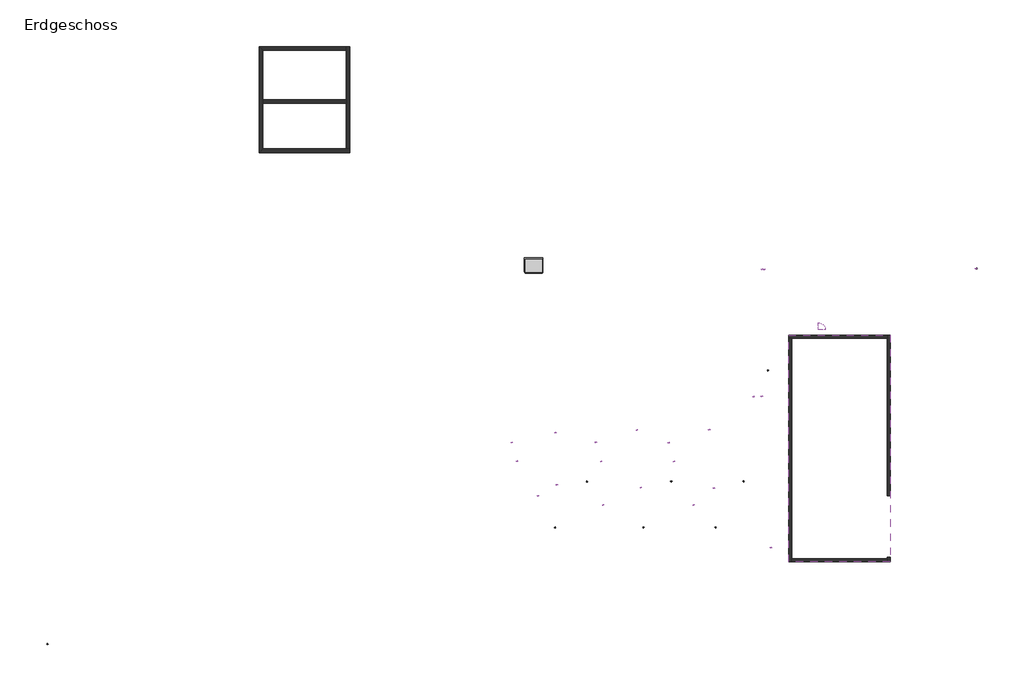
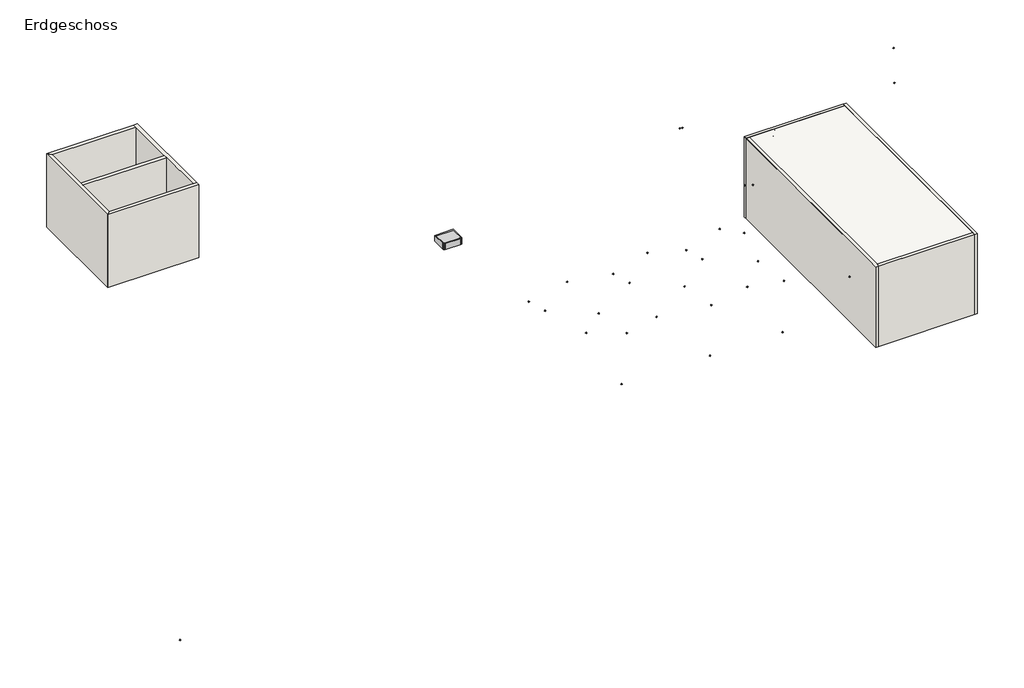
# One storey, incomplete: 32 proxies, 9 walls, 1 slab.
"""IFC4 building model written with IfcOpenShell, lengths in millimetres."""

from ifc_helpers import new_model, si_unit, origin, origin_with_axes, place, context, project, spatial, polyline, outline, extrude, faceted_brep, triangles, transform, mapped, element, save
from components import generic_models_42b81b73, generic_models_af65d3da, geschossdecke_929_geschossdecke_929_51702491

model = new_model("IFC4")

# Units and contexts
model_context = context("Model", 3, world=origin())
ifc_project = project(units=[si_unit("LENGTHUNIT", "METRE", prefix="MILLI")], contexts=[model_context])

# Site, building, storey
site = spatial("IfcSite", under=ifc_project)
building = spatial("IfcBuilding", under=site)
storey = spatial("IfcBuildingStorey", under=building, Name="Erdgeschoss", Elevation=0.0)

# Proxies
placement = place(None, origin())
element("IfcBuildingElementProxy", 1, Name="Gebäudeautomation", ObjectType="Gebäudeautomation", at=placement, inside=storey, context=model_context, shape_type="Tessellation", body=[
    triangles([(34971.7118774, 12296.6087311, 2378.6769012), (34996.712677, 12296.6087311, 2353.6769737), (34971.7118774, 12321.6083679, 2353.6769737), (34971.7118774, 12271.6090942, 2353.6769737), (34946.7134033, 12296.6087311, 2353.6769737), (34971.7118774, 12296.6087311, 2328.6770462)], [[6, 5, 3], [6, 4, 5], [6, 2, 4], [6, 3, 2], [1, 3, 5], [1, 5, 4], [1, 4, 2], [1, 2, 3]]),
])
element("IfcBuildingElementProxy", 2, Name="Gebäudeautomation", ObjectType="Gebäudeautomation", at=placement, inside=storey, context=model_context, shape_type="Tessellation", body=[
    triangles([(34997.8893494, 12296.6087311, 1171.1825094), (35022.8901489, 12296.6087311, 1146.1825819), (34997.8893494, 12321.6083679, 1146.1825819), (34997.8893494, 12271.6090942, 1146.1825819), (34972.8908752, 12296.6087311, 1146.1825819), (34997.8893494, 12296.6087311, 1121.182509)], [[6, 5, 3], [6, 4, 5], [6, 2, 4], [6, 3, 2], [1, 3, 5], [1, 5, 4], [1, 4, 2], [1, 2, 3]]),
])
element("IfcBuildingElementProxy", 3, Name="Gebäudeautomation", ObjectType="Gebäudeautomation", at=placement, inside=storey, context=model_context, shape_type="Tessellation", body=[
    triangles([(20770.0740784, 4927.2079697, 2065.318412), (20795.0748779, 4927.2079697, 2040.3184845), (20770.0740784, 4952.2081879, 2040.3184845), (20770.0740784, 4902.2077515, 2040.3184845), (20745.0756042, 4927.2079697, 2040.3184845), (20770.0740784, 4927.2079697, 2015.3184116)], [[6, 5, 3], [6, 4, 5], [6, 2, 4], [6, 3, 2], [1, 3, 5], [1, 5, 4], [1, 4, 2], [1, 2, 3]]),
])
element("IfcBuildingElementProxy", 4, Name="Gebäudeautomation", ObjectType="Gebäudeautomation", at=placement, inside=storey, context=model_context, shape_type="Tessellation", body=[
    triangles([(21334.9489014, 6974.3644089, 2376.3251553), (21359.9497009, 6974.3644089, 2351.3252277), (21334.9489014, 6999.3640457, 2351.3252277), (21334.9489014, 6949.3641907, 2351.3252277), (21309.9504272, 6974.3644089, 2351.3252277), (21334.9489014, 6974.3644089, 2326.3250095)], [[6, 5, 3], [6, 4, 5], [6, 2, 4], [6, 3, 2], [1, 3, 5], [1, 5, 4], [1, 4, 2], [1, 2, 3]]),
])
element("IfcBuildingElementProxy", 5, Name="Gebäudeautomation", ObjectType="Gebäudeautomation", at=placement, inside=storey, context=model_context, shape_type="Tessellation", body=[
    triangles([(22355.7772888, 5392.4696869, 1220.8779499), (22380.7780884, 5392.4696869, 1195.8778044), (22355.7772888, 5417.4699051, 1195.8778044), (22355.7772888, 5367.4694687, 1195.8778044), (22330.7764893, 5392.4696869, 1195.8778044), (22355.7772888, 5392.4696869, 1170.8778042)], [[6, 5, 3], [6, 4, 5], [6, 2, 4], [6, 3, 2], [1, 3, 5], [1, 5, 4], [1, 4, 2], [1, 2, 3]]),
])
element("IfcBuildingElementProxy", 6, Name="Gebäudeautomation", ObjectType="Gebäudeautomation", at=placement, inside=storey, context=model_context, shape_type="Tessellation", body=[
    triangles([(21321.2869446, 3897.0580582, 748.9205658), (21346.2854187, 3897.0580582, 723.9205656), (21321.2869446, 3922.0579857, 723.9205656), (21321.2869446, 3872.05784, 723.9205656), (21296.286145, 3897.0580582, 723.9205656), (21321.2869446, 3897.0580582, 698.9205654)], [[6, 5, 3], [6, 4, 5], [6, 2, 4], [6, 3, 2], [1, 3, 5], [1, 5, 4], [1, 4, 2], [1, 2, 3]]),
])
element("IfcBuildingElementProxy", 7, Name="Gebäudeautomation", ObjectType="Gebäudeautomation", at=placement, inside=storey, context=model_context, shape_type="Tessellation", body=[
    triangles([(20090.7294983, 6050.8062469, 2386.3672749), (20115.7279724, 6050.8062469, 2361.3673473), (20090.7294983, 6075.8064651, 2361.3673473), (20090.7294983, 6025.8060287, 2361.3673473), (20065.7286987, 6050.8062469, 2361.3673473), (20090.7294983, 6050.8062469, 2336.3672745)], [[6, 5, 3], [6, 4, 5], [6, 2, 4], [6, 3, 2], [1, 3, 5], [1, 5, 4], [1, 4, 2], [1, 2, 3]]),
])
element("IfcBuildingElementProxy", 8, Name="Gebäudeautomation", ObjectType="Gebäudeautomation", at=placement, inside=storey, context=model_context, shape_type="Tessellation", body=[
    triangles([(19915.103009, 6660.5707718, 2381.3495579), (19940.1038086, 6660.5707718, 2356.3496304), (19915.103009, 6685.5704086, 2356.3496304), (19915.103009, 6635.5705536, 2356.3496304), (19890.1045349, 6660.5707718, 2356.3496304), (19915.103009, 6660.5707718, 2331.3494122)], [[6, 5, 3], [6, 4, 5], [6, 2, 4], [6, 3, 2], [1, 3, 5], [1, 5, 4], [1, 4, 2], [1, 2, 3]]),
])
element("IfcBuildingElementProxy", 9, Name="Gebäudeautomation", ObjectType="Gebäudeautomation", at=placement, inside=storey, context=model_context, shape_type="Tessellation", body=[
    triangles([(21380.3879883, 5283.3629745, 2304.7020561), (21405.3887878, 5283.3629745, 2279.7021286), (21380.3879883, 5308.3626114, 2279.7021286), (21380.3879883, 5258.3627563, 2279.7021286), (21355.3871887, 5283.3629745, 2279.7021286), (21380.3879883, 5283.3629745, 2254.7019104)], [[6, 5, 3], [6, 4, 5], [6, 2, 4], [6, 3, 2], [1, 3, 5], [1, 5, 4], [1, 4, 2], [1, 2, 3]]),
])
element("IfcBuildingElementProxy", 10, Name="Gebäudeautomation", ObjectType="Gebäudeautomation", at=placement, inside=storey, context=model_context, shape_type="Tessellation", body=[
    triangles([(22876.3850464, 4632.7869873, 2053.1871758), (22901.3858459, 4632.7869873, 2028.1872482), (22876.3850464, 4657.7872055, 2028.1872482), (22876.3850464, 4607.7870598, 2028.1872482), (22851.3842468, 4632.7869873, 2028.1872482), (22876.3850464, 4632.7869873, 2003.1871754)], [[6, 5, 3], [6, 4, 5], [6, 2, 4], [6, 3, 2], [1, 3, 5], [1, 5, 4], [1, 4, 2], [1, 2, 3]]),
])
element("IfcBuildingElementProxy", 11, Name="Gebäudeautomation", ObjectType="Gebäudeautomation", at=placement, inside=storey, context=model_context, shape_type="Tessellation", body=[
    triangles([(23982.4849731, 7061.0137711, 2382.7592102), (24007.4834473, 7061.0137711, 2357.7592827), (23982.4849731, 7086.0139893, 2357.7592827), (23982.4849731, 7036.0141342, 2357.7592827), (23957.4841736, 7061.0137711, 2357.7592827), (23982.4849731, 7061.0137711, 2332.7592098)], [[6, 5, 3], [6, 4, 5], [6, 2, 4], [6, 3, 2], [1, 3, 5], [1, 5, 4], [1, 4, 2], [1, 2, 3]]),
])
element("IfcBuildingElementProxy", 12, Name="Gebäudeautomation", ObjectType="Gebäudeautomation", at=placement, inside=storey, context=model_context, shape_type="Tessellation", body=[
    triangles([(25091.194043, 5395.4299713, 1216.2765593), (25116.1925171, 5395.4299713, 1191.2764864), (25091.194043, 5420.4301895, 1191.2764864), (25091.194043, 5370.4297531, 1191.2764864), (25066.1932434, 5395.4299713, 1191.2764864), (25091.194043, 5395.4299713, 1166.2764862)], [[6, 5, 3], [6, 4, 5], [6, 2, 4], [6, 3, 2], [1, 3, 5], [1, 5, 4], [1, 4, 2], [1, 2, 3]]),
])
element("IfcBuildingElementProxy", 13, Name="Gebäudeautomation", ObjectType="Gebäudeautomation", at=placement, inside=storey, context=model_context, shape_type="Tessellation", body=[
    triangles([(24185.2935242, 3903.7463127, 711.716514), (24210.2943237, 3903.7463127, 686.7165138), (24185.2935242, 3928.7465309, 686.7165138), (24185.2935242, 3878.7463852, 686.7165138), (24160.2927246, 3903.7463127, 686.7165138), (24185.2935242, 3903.7463127, 661.716441)], [[6, 5, 3], [6, 4, 5], [6, 2, 4], [6, 3, 2], [1, 3, 5], [1, 5, 4], [1, 4, 2], [1, 2, 3]]),
])
element("IfcBuildingElementProxy", 14, Name="Gebäudeautomation", ObjectType="Gebäudeautomation", at=placement, inside=storey, context=model_context, shape_type="Tessellation", body=[
    triangles([(22815.4259766, 6041.2702011, 2385.5795322), (22840.4244507, 6041.2702011, 2360.5796047), (22815.4259766, 6066.2704193, 2360.5796047), (22815.4259766, 6016.2699829, 2360.5796047), (22790.425177, 6041.2702011, 2360.5796047), (22815.4259766, 6041.2702011, 2335.5795319)], [[6, 5, 3], [6, 4, 5], [6, 2, 4], [6, 3, 2], [1, 3, 5], [1, 5, 4], [1, 4, 2], [1, 2, 3]]),
])
element("IfcBuildingElementProxy", 15, Name="Gebäudeautomation", ObjectType="Gebäudeautomation", at=placement, inside=storey, context=model_context, shape_type="Tessellation", body=[
    triangles([(22645.9456238, 6663.4130402, 2375.5817413), (22670.9440979, 6663.4130402, 2350.5818138), (22645.9456238, 6688.412677, 2350.5818138), (22645.9456238, 6638.412822, 2350.5818138), (22620.9448242, 6663.4130402, 2350.5818138), (22645.9456238, 6663.4130402, 2325.581741)], [[6, 5, 3], [6, 4, 5], [6, 2, 4], [6, 3, 2], [1, 3, 5], [1, 5, 4], [1, 4, 2], [1, 2, 3]]),
])
element("IfcBuildingElementProxy", 16, Name="Gebäudeautomation", ObjectType="Gebäudeautomation", at=placement, inside=storey, context=model_context, shape_type="Tessellation", body=[
    triangles([(24107.5587341, 5197.5577469, 2320.3410725), (24132.5572083, 5197.5577469, 2295.3411449), (24107.5587341, 5222.5579651, 2295.3411449), (24107.5587341, 5172.55811, 2295.3411449), (24082.5579346, 5197.5577469, 2295.3411449), (24107.5587341, 5197.5577469, 2270.3410721)], [[6, 5, 3], [6, 4, 5], [6, 2, 4], [6, 3, 2], [1, 3, 5], [1, 5, 4], [1, 4, 2], [1, 2, 3]]),
])
element("IfcBuildingElementProxy", 17, Name="Gebäudeautomation", ObjectType="Gebäudeautomation", at=placement, inside=storey, context=model_context, shape_type="Tessellation", body=[
    triangles([(25810.0687683, 4630.4045746, 2057.2016109), (25835.0672424, 4630.4045746, 2032.2016834), (25810.0687683, 4655.4047928, 2032.2016834), (25810.0687683, 4605.4046471, 2032.2016834), (25785.0679688, 4630.4045746, 2032.2016834), (25810.0687683, 4630.4045746, 2007.2016106)], [[6, 5, 3], [6, 4, 5], [6, 2, 4], [6, 3, 2], [1, 3, 5], [1, 5, 4], [1, 4, 2], [1, 2, 3]]),
])
element("IfcBuildingElementProxy", 18, Name="Gebäudeautomation", ObjectType="Gebäudeautomation", at=placement, inside=storey, context=model_context, shape_type="Tessellation", body=[
    triangles([(26324.6536377, 7071.8235764, 2375.4890144), (26349.6544373, 7071.8235764, 2350.4889416), (26324.6536377, 7096.8237946, 2350.4889416), (26324.6536377, 7046.8233582, 2350.4889416), (26299.6551636, 7071.8235764, 2350.4889416), (26324.6536377, 7071.8235764, 2325.4890141)], [[6, 5, 3], [6, 4, 5], [6, 2, 4], [6, 3, 2], [1, 3, 5], [1, 5, 4], [1, 4, 2], [1, 2, 3]]),
])
element("IfcBuildingElementProxy", 19, Name="Gebäudeautomation", ObjectType="Gebäudeautomation", at=placement, inside=storey, context=model_context, shape_type="Tessellation", body=[
    triangles([(27439.0646851, 5395.4299713, 1223.3693676), (27464.0654846, 5395.4299713, 1198.3694401), (27439.0646851, 5420.4301895, 1198.3694401), (27439.0646851, 5370.4297531, 1198.3694401), (27414.0662109, 5395.4299713, 1198.3694401), (27439.0646851, 5395.4299713, 1173.3694399)], [[6, 5, 3], [6, 4, 5], [6, 2, 4], [6, 3, 2], [1, 3, 5], [1, 5, 4], [1, 4, 2], [1, 2, 3]]),
])
element("IfcBuildingElementProxy", 20, Name="Gebäudeautomation", ObjectType="Gebäudeautomation", at=placement, inside=storey, context=model_context, shape_type="Tessellation", body=[
    triangles([(26532.8641846, 3903.7463127, 695.6586279), (26557.8626587, 3903.7463127, 670.6586277), (26532.8641846, 3928.7465309, 670.6586277), (26532.8641846, 3878.7463852, 670.6586277), (26507.863385, 3903.7463127, 670.6586277), (26532.8641846, 3903.7463127, 645.6585548)], [[6, 5, 3], [6, 4, 5], [6, 2, 4], [6, 3, 2], [1, 3, 5], [1, 5, 4], [1, 4, 2], [1, 2, 3]]),
])
element("IfcBuildingElementProxy", 21, Name="Gebäudeautomation", ObjectType="Gebäudeautomation", at=placement, inside=storey, context=model_context, shape_type="Tessellation", body=[
    triangles([(25173.9355042, 6041.2702011, 2371.3937702), (25198.9363037, 6041.2702011, 2346.3938427), (25173.9355042, 6066.2704193, 2346.3938427), (25173.9355042, 6016.2699829, 2346.3938427), (25148.93703, 6041.2702011, 2346.3938427), (25173.9355042, 6041.2702011, 2321.3937698)], [[6, 5, 3], [6, 4, 5], [6, 2, 4], [6, 3, 2], [1, 3, 5], [1, 5, 4], [1, 4, 2], [1, 2, 3]]),
])
element("IfcBuildingElementProxy", 22, Name="Gebäudeautomation", ObjectType="Gebäudeautomation", at=placement, inside=storey, context=model_context, shape_type="Tessellation", body=[
    triangles([(25006.9201172, 6650.8574112, 2371.0214092), (25031.9209167, 6650.8574112, 2346.0213364), (25006.9201172, 6675.857048, 2346.0213364), (25006.9201172, 6625.857193, 2346.0213364), (24981.9216431, 6650.8574112, 2346.0213364), (25006.9201172, 6650.8574112, 2321.0214088)], [[6, 5, 3], [6, 4, 5], [6, 2, 4], [6, 3, 2], [1, 3, 5], [1, 5, 4], [1, 4, 2], [1, 2, 3]]),
])
element("IfcBuildingElementProxy", 23, Name="Gebäudeautomation", ObjectType="Gebäudeautomation", at=placement, inside=storey, context=model_context, shape_type="Tessellation", body=[
    triangles([(26473.546875, 5177.4746704, 2371.9928616), (26498.5476746, 5177.4746704, 2346.9927887), (26473.546875, 5202.4743073, 2346.9927887), (26473.546875, 5152.4744522, 2346.9927887), (26448.5484009, 5177.4746704, 2346.9927887), (26473.546875, 5177.4746704, 2321.9928612)], [[6, 5, 3], [6, 4, 5], [6, 2, 4], [6, 3, 2], [1, 3, 5], [1, 5, 4], [1, 4, 2], [1, 2, 3]]),
])
element("IfcBuildingElementProxy", 24, Name="Gebäudeautomation", ObjectType="Gebäudeautomation", at=placement, inside=storey, context=model_context, shape_type="Tessellation", body=[
    triangles([(28027.2683167, 8155.8998474, 2631.8274376), (28052.2691162, 8155.8998474, 2606.8272194), (28027.2683167, 8180.9000656, 2606.8272194), (28027.2683167, 8130.8996292, 2606.8272194), (28002.2698425, 8155.8998474, 2606.8272194), (28027.2683167, 8155.8998474, 2581.8272919)], [[6, 5, 3], [6, 4, 5], [6, 2, 4], [6, 3, 2], [1, 3, 5], [1, 5, 4], [1, 4, 2], [1, 2, 3]]),
])
element("IfcBuildingElementProxy", 25, Name="Gebäudeautomation", ObjectType="Gebäudeautomation", at=placement, inside=storey, context=model_context, shape_type="Tessellation", body=[
    triangles([(27761.3822205, 8145.584198, 2716.2135658), (27786.38302, 8145.584198, 2691.2136383), (27761.3822205, 8170.5844162, 2691.2136383), (27761.3822205, 8120.5839798, 2691.2136383), (27736.3837463, 8145.584198, 2691.2136383), (27761.3822205, 8145.584198, 2666.2134201)], [[6, 5, 3], [6, 4, 5], [6, 2, 4], [6, 3, 2], [1, 3, 5], [1, 5, 4], [1, 4, 2], [1, 2, 3]]),
])
element("IfcBuildingElementProxy", 26, Name="Gebäudeautomation", ObjectType="Gebäudeautomation", at=placement, inside=storey, context=model_context, shape_type="Tessellation", body=[
    triangles([(28042.251123, 12277.0285309, 2062.3276062), (28067.2519226, 12277.0285309, 2037.3275333), (28042.251123, 12302.0293304, 2037.3275333), (28042.251123, 12252.028894, 2037.3275333), (28017.2503235, 12277.0285309, 2037.3275333), (28042.251123, 12277.0285309, 2012.3276058)], [[6, 5, 3], [6, 4, 5], [6, 2, 4], [6, 3, 2], [1, 3, 5], [1, 5, 4], [1, 4, 2], [1, 2, 3]]),
])
element("IfcBuildingElementProxy", 27, Name="Gebäudeautomation", ObjectType="Gebäudeautomation", at=placement, inside=storey, context=model_context, shape_type="Tessellation", body=[
    triangles([(28117.2511963, 12266.0419922, 2061.643055), (28142.2519958, 12266.0419922, 2036.6429821), (28117.2511963, 12291.041629, 2036.6429821), (28117.2511963, 12241.0411926, 2036.6429821), (28092.2503967, 12266.0419922, 2036.6429821), (28117.2511963, 12266.0419922, 2011.6430546)], [[6, 5, 3], [6, 4, 5], [6, 2, 4], [6, 3, 2], [1, 3, 5], [1, 5, 4], [1, 4, 2], [1, 2, 3]]),
])
element("IfcBuildingElementProxy", 28, Name="Gebäudeautomation", ObjectType="Gebäudeautomation", at=placement, inside=storey, context=model_context, shape_type="Tessellation", body=[
    triangles([(28226.1864075, 8994.3882019, 411.5372349), (28251.187207, 8994.3882019, 386.5372347), (28226.1864075, 9019.3884201, 386.5372347), (28226.1864075, 8969.3879837, 386.5372347), (28201.1856079, 8994.3882019, 386.5372347), (28226.1864075, 8994.3882019, 361.5372345)], [[6, 5, 3], [6, 4, 5], [6, 2, 4], [6, 3, 2], [1, 3, 5], [1, 5, 4], [1, 4, 2], [1, 2, 3]]),
])
element("IfcBuildingElementProxy", 29, Name="Gebäudeautomation", ObjectType="Gebäudeautomation", at=placement, inside=storey, context=model_context, shape_type="Tessellation", body=[
    triangles([(28322.9851501, 3245.4074272, 2368.9434837), (28347.9859497, 3245.4074272, 2343.9435562), (28322.9851501, 3270.4073547, 2343.9435562), (28322.9851501, 3220.4074997, 2343.9435562), (28297.9843506, 3245.4074272, 2343.9435562), (28322.9851501, 3245.4074272, 2318.9434834)], [[6, 5, 3], [6, 4, 5], [6, 2, 4], [6, 3, 2], [1, 3, 5], [1, 5, 4], [1, 4, 2], [1, 2, 3]]),
])
element("IfcBuildingElementProxy", 30, Name="Gebäudeautomation", ObjectType="Gebäudeautomation", at=placement, inside=storey, context=model_context, shape_type="Tessellation", body=[
    triangles([(4855.0713844, 115.4290554, 50.0000004), (4880.0718933, 115.4290554, 25.0000002), (4855.0713844, 140.4290555, 25.0000002), (4855.0713844, 90.4290552, 25.0000002), (4830.0717476, 115.4290554, 25.0000002), (4855.0713844, 115.4290554, 0.0)], [[6, 5, 3], [6, 4, 5], [6, 2, 4], [6, 3, 2], [1, 3, 5], [1, 5, 4], [1, 4, 2], [1, 2, 3]]),
])
generic_models_shape = generic_models_42b81b73(model_context)
element("IfcBuildingElementProxy", 31, Name="Rohrbogen 347619 : Rohrbogen 347619", ObjectType="Rohrbogen 347619 : Rohrbogen 347619", at=placement, inside=storey, context=model_context, shape_type="MappedRepresentation", body=[
    mapped(generic_models_shape, transform((0.0, 0.0, 0.0), x_axis=(1.0, 0.0, 0.0), y_axis=(0.0, 1.0, 0.0), z_axis=(0.0, 0.0, 1.0))),
])
generic_models_2_shape = generic_models_af65d3da(model_context)
element("IfcBuildingElementProxy", 32, Name="Ausgussbecken : Ausgussbecken", ObjectType="Ausgussbecken : Ausgussbecken", at=placement, inside=storey, context=model_context, shape_type="MappedRepresentation", body=[
    mapped(generic_models_2_shape, transform((0.0, 0.0, 0.0), x_axis=(1.0, 0.0, 0.0), y_axis=(0.0, 1.0, 0.0), z_axis=(0.0, 0.0, 1.0))),
])

# Slab
geschossdecke_929_geschossdecke_929_shape = geschossdecke_929_geschossdecke_929_51702491(model_context)
element("IfcSlab", 33, ObjectType="Geschossdecke 929 : Geschossdecke 929", at=placement, inside=storey, context=model_context, shape_type="MappedRepresentation", body=[
    mapped(geschossdecke_929_geschossdecke_929_shape, transform((0.0, 0.0, 0.0), x_axis=(1.0, 0.0, 0.0), y_axis=(0.0, 1.0, 0.0), z_axis=(0.0, 0.0, 1.0))),
])

# Walls
element("IfcWall", 34, ObjectType="Wand", at=placement, inside=storey, context=model_context, shape_type="Brep", body=[
    faceted_brep([(11724.9212566, 16062.3958575, 0.0), (14662.4212566, 16062.3958575, 0.0), (14662.4212566, 16062.3958575, 2500.0), (11724.9212566, 16062.3958575, 2500.0), (11839.9212566, 16177.3958575, 0.0), (11839.9212566, 16177.3958575, 2500.0), (14547.4212566, 16177.3958575, 2500.0), (14662.4212566, 16177.3958575, 2500.0), (14662.4212566, 16177.3958575, 0.0), (14547.4212566, 16177.3958575, 0.0)], [[[0, 1, 2, 3]], [[4, 5, 6, 7, 8, 9]], [[1, 0, 4, 9, 8]], [[3, 2, 7, 6, 5]], [[0, 3, 5, 4]], [[2, 1, 8, 7]]]),
])
element("IfcWall", 35, ObjectType="Wand", at=placement, inside=storey, context=model_context, shape_type="SweptSolid", body=[
    extrude(outline(polyline([(11724.9212566, 19499.8958575), (14547.4212566, 19499.8958575), (14547.4212566, 19384.8958575), (11839.9212566, 19384.8958575), (11724.9212566, 19499.8958575)])), origin_with_axes(), (0.0, 0.0, 1.0), 2500.0),
])
element("IfcWall", 36, ObjectType="Wand", at=placement, inside=storey, context=model_context, shape_type="Brep", body=[
    faceted_brep([(11724.9212566, 19499.8958575, 0.0), (11724.9212566, 16062.3958575, 0.0), (11724.9212566, 16062.3958575, 2500.0), (11724.9212566, 19499.8958575, 2500.0), (11839.9212566, 16177.3958575, 0.0), (11839.9212566, 17666.1458575, 0.0), (11839.9212566, 17781.1458575, 0.0), (11839.9212566, 19384.8958575, 0.0), (11839.9212566, 19384.8958575, 2500.0), (11839.9212566, 17781.1458575, 2500.0), (11839.9212566, 17666.1458575, 2500.0), (11839.9212566, 16177.3958575, 2500.0)], [[[0, 1, 2, 3]], [[4, 5, 6, 7, 8, 9, 10, 11]], [[1, 0, 7, 6, 5, 4]], [[3, 2, 11, 10, 9, 8]], [[2, 1, 4, 11]], [[0, 3, 8, 7]]]),
])
element("IfcWall", 37, ObjectType="Wand", at=placement, inside=storey, context=model_context, shape_type="Brep", body=[
    faceted_brep([(14662.4212566, 19499.8958575, 2500.0), (14662.4212566, 16177.3958575, 2500.0), (14662.4212566, 16177.3958575, 0.0), (14662.4212566, 19499.8958575, 0.0), (14547.4212566, 19499.8958575, 2500.0), (14547.4212566, 19499.8958575, 0.0), (14547.4212566, 19384.8958575, 0.0), (14547.4212566, 17781.1458575, 0.0), (14547.4212566, 17666.1458575, 0.0), (14547.4212566, 16177.3958575, 0.0), (14547.4212566, 16177.3958575, 2500.0), (14547.4212566, 17666.1458575, 2500.0), (14547.4212566, 17781.1458575, 2500.0), (14547.4212566, 19384.8958575, 2500.0)], [[[0, 1, 2, 3]], [[4, 5, 6, 7, 8, 9, 10, 11, 12, 13]], [[1, 0, 4, 13, 12, 11, 10]], [[3, 2, 9, 8, 7, 6, 5]], [[2, 1, 10, 9]], [[0, 3, 5, 4]]]),
])
element("IfcWall", 38, ObjectType="Wand", at=placement, inside=storey, context=model_context, shape_type="SweptSolid", body=[
    extrude(outline(polyline([(14547.4212566, 17666.1458575), (11839.9212566, 17666.1458575), (11839.9212566, 17781.1458575), (14547.4212566, 17781.1458575), (14547.4212566, 17666.1458575)])), origin_with_axes(), (0.0, 0.0, 1.0), 2500.0),
])
element("IfcWall", 39, ObjectType="Wand:1000", at=placement, inside=storey, context=model_context, shape_type="Brep", body=[
    faceted_brep([(32090.3948776, 2781.8683939, 2750.0), (32090.3948776, 2881.8683939, 2750.0), (32090.3948776, 10043.2083939, 2750.0), (32090.3948776, 10143.2083939, 2750.0), (32090.3948776, 10143.2083939, 0.0), (32090.3948776, 10043.2083939, 0.0), (32090.3948776, 4931.8703628, 0.0), (32090.3948776, 4931.8703628, 2100.0), (32090.3948776, 2931.8703628, 2100.0), (32090.3948776, 2931.8703628, 0.0), (32090.3948776, 2881.8683939, 0.0), (32090.3948776, 2781.8683939, 0.0), (32190.3948776, 10143.2083939, 2750.0), (32190.3948776, 2781.8683939, 2750.0), (32190.3948776, 2781.8683939, 0.0), (32190.3948776, 2931.8703628, 0.0), (32190.3948776, 2931.8703628, 2100.0), (32190.3948776, 4931.8703628, 2100.0), (32190.3948776, 4931.8703628, 0.0), (32190.3948776, 10143.2083939, 0.0)], [[[0, 1, 2, 3, 4, 5, 6, 7, 8, 9, 10, 11]], [[12, 13, 14, 15, 16, 17, 18, 19]], [[3, 2, 1, 0, 13, 12]], [[4, 19, 18, 6, 5]], [[14, 11, 10, 9, 15]], [[8, 16, 15, 9]], [[16, 8, 7, 17]], [[17, 7, 6, 18]], [[4, 3, 12, 19]], [[0, 11, 14, 13]]]),
])
element("IfcWall", 40, ObjectType="Wand:1000", at=placement, inside=storey, context=model_context, shape_type="Brep", body=[
    faceted_brep([(32090.3948776, 10043.2083939, 2750.0), (29000.0, 10043.2083939, 2750.0), (28900.0, 10043.2083939, 2750.0), (28900.0, 10043.2083939, 0.0), (29000.0, 10043.2083939, 0.0), (32090.3948776, 10043.2083939, 0.0), (32090.3948776, 10143.2083939, 2750.0), (32090.3948776, 10143.2083939, 0.0), (28900.0, 10143.2083939, 0.0), (28900.0, 10143.2083939, 2750.0)], [[[0, 1, 2, 3, 4, 5]], [[6, 7, 8, 9]], [[2, 1, 0, 6, 9]], [[5, 4, 3, 8, 7]], [[3, 2, 9, 8]], [[0, 5, 7, 6]]]),
])
element("IfcWall", 41, ObjectType="Wand:1000", at=placement, inside=storey, context=model_context, shape_type="Brep", body=[
    faceted_brep([(29000.0, 10043.2083939, 2750.0), (29000.0, 2881.8683939, 2750.0), (29000.0, 2781.8683939, 2750.0), (29000.0, 2781.8683939, 0.0), (29000.0, 2881.8683939, 0.0), (29000.0, 10043.2083939, 0.0), (28900.0, 10043.2083939, 2750.0), (28900.0, 10043.2083939, 0.0), (28900.0, 2781.8683939, 0.0), (28900.0, 2781.8683939, 2750.0)], [[[0, 1, 2, 3, 4, 5]], [[6, 7, 8, 9]], [[2, 1, 0, 6, 9]], [[5, 4, 3, 8, 7]], [[3, 2, 9, 8]], [[0, 5, 7, 6]]]),
])
element("IfcWall", 42, ObjectType="Wand:1000", at=placement, inside=storey, context=model_context, shape_type="SweptSolid", body=[
    extrude(outline(polyline([(29000.0, 2881.8683939), (32090.3948776, 2881.8683939), (32090.3948776, 2781.8683939), (29000.0, 2781.8683939), (29000.0, 2881.8683939)])), origin_with_axes(), (0.0, 0.0, 1.0), 2750.0),
])

save(model, "model.ifc")
